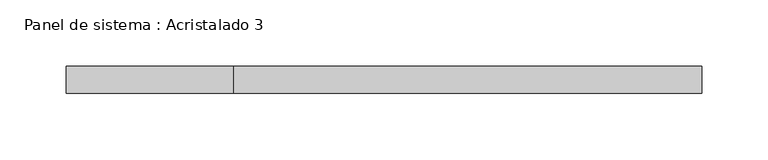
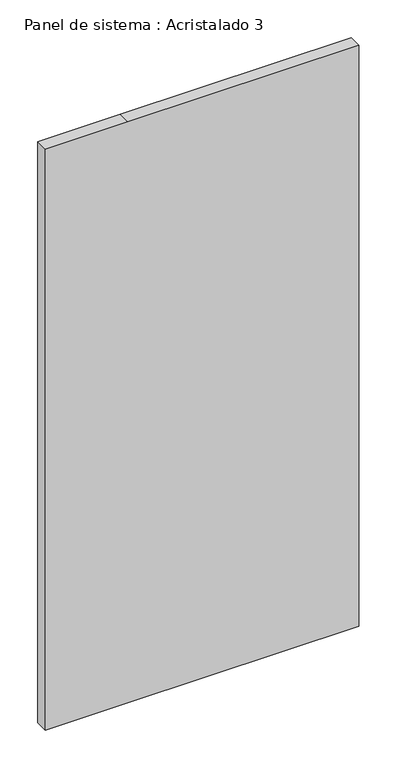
"""IFC4 building model written with IfcOpenShell, lengths in millimetres: plate geometry, Panel de sistema : Acristalado 3."""

from ifc_helpers import new_model, si_unit, frame, origin, place, context, project, spatial, polyline, outline, extrude, source, transform, mapped, element, save


def panel_de_sistema_acristalado_3_0af6a478(model_context):
    return source(origin(), model_context, "Body", "SweptSolid", [
        extrude(outline(polyline([(0.0, -238.9856211), (0.0, -113.240297), (0.0, 238.9856211), (936.3914841, 238.9856211), (936.3914841, -113.240297), (936.3914841, -238.9856211), (0.0, -238.9856211)])), frame((0.0, 90.0, 0.0), z_axis=(0.0, 1.0, 0.0), x_axis=(0.0, 0.0, 1.0)), (0.0, 0.0, 1.0), 20.0),
    ])


if __name__ == "__main__":
    model = new_model("IFC4")
    model_context = context("Model", 3, world=origin())
    ifc_project = project(units=[si_unit("LENGTHUNIT", "METRE", prefix="MILLI")], contexts=[model_context])
    site = spatial("IfcSite", under=ifc_project)
    building = spatial("IfcBuilding", under=site)
    placement = place(None, origin())
    panel_de_sistema_acristalado_3_shape = panel_de_sistema_acristalado_3_0af6a478(model_context)
    element("IfcPlate", 1, ObjectType="Panel de sistema : Acristalado 3", at=placement, inside=building, context=model_context, shape_type="MappedRepresentation", body=[
        mapped(panel_de_sistema_acristalado_3_shape, transform((0.0, 0.0, 0.0), x_axis=(1.0, 0.0, 0.0), y_axis=(0.0, 1.0, 0.0), z_axis=(0.0, 0.0, 1.0))),
    ])
    save(model, "model.ifc")
